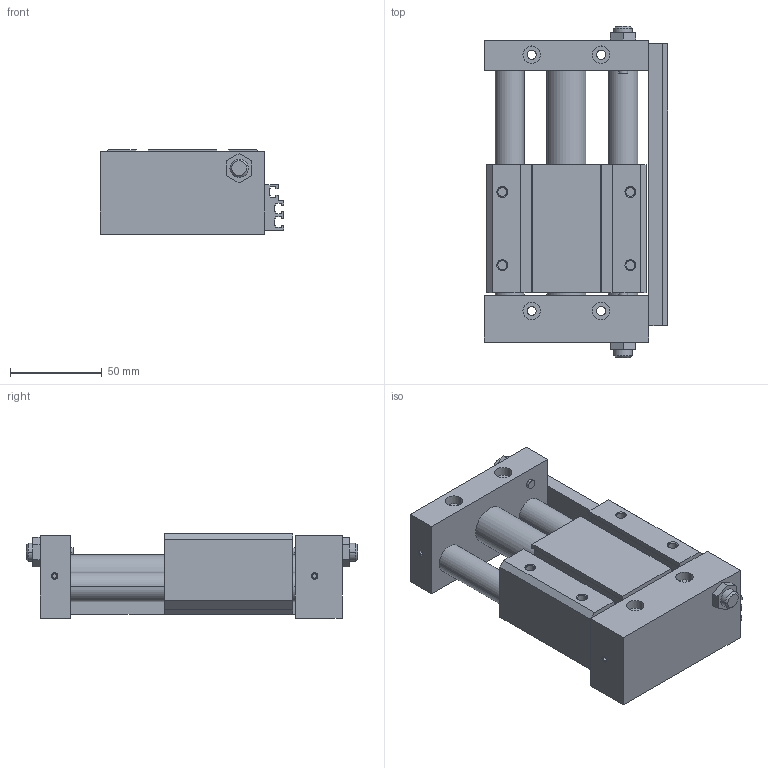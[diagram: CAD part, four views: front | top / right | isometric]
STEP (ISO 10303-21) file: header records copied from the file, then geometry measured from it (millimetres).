
FILE_DESCRIPTION((''),'2;1');
FILE_NAME('C:\Documents and Settings\Administrator\桌面\GYS\GYS20\GYSR20X50.stp','2012-03-06T20:22:50',('Administrator'),(''),'Autodesk Inventor 8','Autodesk Inventor 8','');
FILE_SCHEMA(('AUTOMOTIVE_DESIGN { 1 0 10303 214 1 1 1 1 }'));
Length unit declared in the file: millimetre
Products named in the file (3): GYSR20X50; GYS20X50; GYS20160X50
Assembly tree (2 placements, depth 2):
  GYSR20X50
    GYS20X50
    GYS20160X50
Bounding box: 100.5 x 181 x 46 mm (x, y, z)
Volume: 480067.1 mm3; surface area: 84217.1 mm2
Topology: 2 solids, 2 shells, 243 faces, 626 edges, 408 vertices
Faces by surface type: plane 133, cylinder 76, cone 28, bspline 6
Entity records: 7564 total; most frequent: CARTESIAN_POINT 1356, DIRECTION 1306, ORIENTED_EDGE 1252, EDGE_CURVE 626, AXIS2_PLACEMENT_3D 438, VECTOR 430, LINE 430, VERTEX_POINT 408
